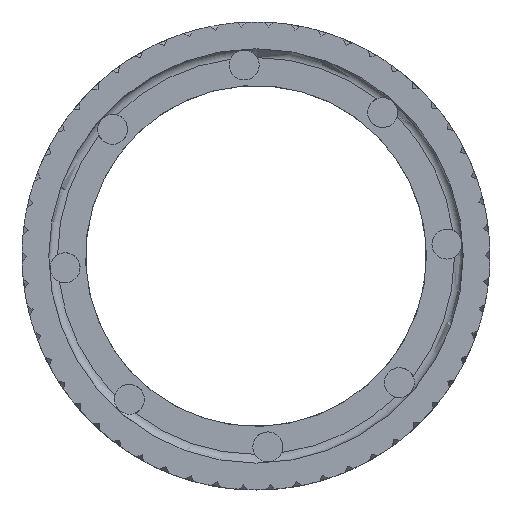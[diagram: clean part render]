
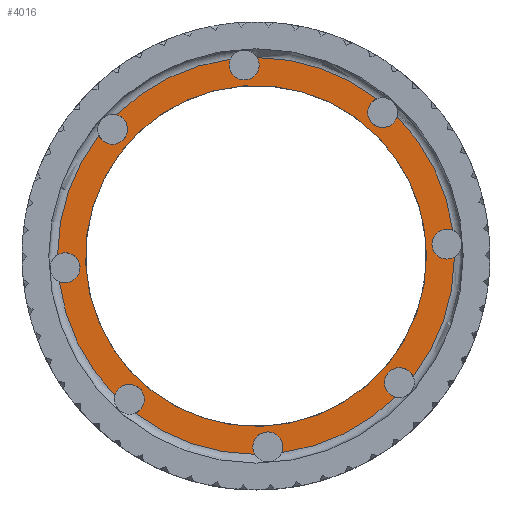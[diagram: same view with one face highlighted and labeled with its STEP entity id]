
A CAD part, top view. The second image highlights one B-rep face of the part: STEP entity #4016.
In plain terms, the highlighted planar face has unit normal (0, 0, 1).
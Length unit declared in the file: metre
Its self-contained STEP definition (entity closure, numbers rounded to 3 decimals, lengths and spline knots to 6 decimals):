
#768=ORIENTED_EDGE('',*,*,#2136,.T.);
#769=ORIENTED_EDGE('',*,*,#2137,.T.);
#770=ORIENTED_EDGE('',*,*,#2138,.T.);
#771=ORIENTED_EDGE('',*,*,#2139,.T.);
#772=ORIENTED_EDGE('',*,*,#2140,.T.);
#773=ORIENTED_EDGE('',*,*,#2141,.T.);
#774=ORIENTED_EDGE('',*,*,#2142,.T.);
#775=ORIENTED_EDGE('',*,*,#2143,.T.);
#776=ORIENTED_EDGE('',*,*,#2144,.T.);
#777=ORIENTED_EDGE('',*,*,#2145,.T.);
#778=ORIENTED_EDGE('',*,*,#2146,.T.);
#779=ORIENTED_EDGE('',*,*,#2147,.T.);
#780=ORIENTED_EDGE('',*,*,#2148,.T.);
#781=ORIENTED_EDGE('',*,*,#2149,.T.);
#782=ORIENTED_EDGE('',*,*,#2150,.T.);
#783=ORIENTED_EDGE('',*,*,#2151,.T.);
#784=ORIENTED_EDGE('',*,*,#2152,.T.);
#2136=EDGE_CURVE('',#2820,#2821,#3281,.F.);
#2137=EDGE_CURVE('',#2821,#2822,#3282,.T.);
#2138=EDGE_CURVE('',#2822,#2823,#3283,.F.);
#2139=EDGE_CURVE('',#2823,#2824,#3284,.T.);
#2140=EDGE_CURVE('',#2824,#2825,#3285,.F.);
#2141=EDGE_CURVE('',#2825,#2826,#3286,.T.);
#2142=EDGE_CURVE('',#2826,#2827,#3287,.F.);
#2143=EDGE_CURVE('',#2827,#2828,#3288,.T.);
#2144=EDGE_CURVE('',#2828,#2829,#3289,.F.);
#2145=EDGE_CURVE('',#2829,#2830,#3290,.T.);
#2146=EDGE_CURVE('',#2830,#2831,#3291,.F.);
#2147=EDGE_CURVE('',#2831,#2832,#3292,.T.);
#2148=EDGE_CURVE('',#2832,#2833,#3293,.F.);
#2149=EDGE_CURVE('',#2833,#2834,#3294,.T.);
#2150=EDGE_CURVE('',#2834,#2835,#3295,.F.);
#2151=EDGE_CURVE('',#2835,#2820,#3296,.T.);
#2152=EDGE_CURVE('',#2836,#2836,#3297,.T.);
#2820=VERTEX_POINT('',#5022);
#2821=VERTEX_POINT('',#5023);
#2822=VERTEX_POINT('',#5025);
#2823=VERTEX_POINT('',#5027);
#2824=VERTEX_POINT('',#5029);
#2825=VERTEX_POINT('',#5031);
#2826=VERTEX_POINT('',#5033);
#2827=VERTEX_POINT('',#5035);
#2828=VERTEX_POINT('',#5037);
#2829=VERTEX_POINT('',#5039);
#2830=VERTEX_POINT('',#5041);
#2831=VERTEX_POINT('',#5043);
#2832=VERTEX_POINT('',#5045);
#2833=VERTEX_POINT('',#5047);
#2834=VERTEX_POINT('',#5049);
#2835=VERTEX_POINT('',#5051);
#2836=VERTEX_POINT('',#5054);
#3281=CIRCLE('',#4271,0.03375);
#3282=CIRCLE('',#4272,0.00255);
#3283=CIRCLE('',#4273,0.03375);
#3284=CIRCLE('',#4274,0.00255);
#3285=CIRCLE('',#4275,0.03375);
#3286=CIRCLE('',#4276,0.00255);
#3287=CIRCLE('',#4277,0.03375);
#3288=CIRCLE('',#4278,0.00255);
#3289=CIRCLE('',#4279,0.03375);
#3290=CIRCLE('',#4280,0.00255);
#3291=CIRCLE('',#4281,0.03375);
#3292=CIRCLE('',#4282,0.00255);
#3293=CIRCLE('',#4283,0.03375);
#3294=CIRCLE('',#4284,0.00255);
#3295=CIRCLE('',#4285,0.03375);
#3296=CIRCLE('',#4286,0.00255);
#3297=CIRCLE('',#4287,0.029);
#3422=EDGE_LOOP('',(#768,#769,#770,#771,#772,#773,#774,#775,#776,#777,#778,
#779,#780,#781,#782,#783));
#3423=EDGE_LOOP('',(#784));
#3681=FACE_BOUND('',#3422,.T.);
#3682=FACE_BOUND('',#3423,.T.);
#3940=PLANE('',#4270);
#4016=ADVANCED_FACE('',(#3681,#3682),#3940,.F.);
#4270=AXIS2_PLACEMENT_3D('',#5020,#4505,#4506);
#4271=AXIS2_PLACEMENT_3D('',#5021,#4507,#4508);
#4272=AXIS2_PLACEMENT_3D('',#5024,#4509,#4510);
#4273=AXIS2_PLACEMENT_3D('',#5026,#4511,#4512);
#4274=AXIS2_PLACEMENT_3D('',#5028,#4513,#4514);
#4275=AXIS2_PLACEMENT_3D('',#5030,#4515,#4516);
#4276=AXIS2_PLACEMENT_3D('',#5032,#4517,#4518);
#4277=AXIS2_PLACEMENT_3D('',#5034,#4519,#4520);
#4278=AXIS2_PLACEMENT_3D('',#5036,#4521,#4522);
#4279=AXIS2_PLACEMENT_3D('',#5038,#4523,#4524);
#4280=AXIS2_PLACEMENT_3D('',#5040,#4525,#4526);
#4281=AXIS2_PLACEMENT_3D('',#5042,#4527,#4528);
#4282=AXIS2_PLACEMENT_3D('',#5044,#4529,#4530);
#4283=AXIS2_PLACEMENT_3D('',#5046,#4531,#4532);
#4284=AXIS2_PLACEMENT_3D('',#5048,#4533,#4534);
#4285=AXIS2_PLACEMENT_3D('',#5050,#4535,#4536);
#4286=AXIS2_PLACEMENT_3D('',#5052,#4537,#4538);
#4287=AXIS2_PLACEMENT_3D('',#5053,#4539,#4540);
#4505=DIRECTION('',(0.,0.,-1.));
#4506=DIRECTION('',(0.819,0.574,0.));
#4507=DIRECTION('',(0.,0.,-1.));
#4508=DIRECTION('',(1.,0.,0.));
#4509=DIRECTION('',(0.,0.,-1.));
#4510=DIRECTION('',(1.,0.,0.));
#4511=DIRECTION('',(0.,0.,-1.));
#4512=DIRECTION('',(1.,0.,0.));
#4513=DIRECTION('',(0.,0.,-1.));
#4514=DIRECTION('',(1.,0.,0.));
#4515=DIRECTION('',(0.,0.,-1.));
#4516=DIRECTION('',(1.,0.,0.));
#4517=DIRECTION('',(0.,0.,-1.));
#4518=DIRECTION('',(1.,0.,0.));
#4519=DIRECTION('',(0.,0.,-1.));
#4520=DIRECTION('',(1.,0.,0.));
#4521=DIRECTION('',(0.,0.,-1.));
#4522=DIRECTION('',(1.,0.,0.));
#4523=DIRECTION('',(0.,0.,-1.));
#4524=DIRECTION('',(1.,0.,0.));
#4525=DIRECTION('',(0.,0.,-1.));
#4526=DIRECTION('',(1.,0.,0.));
#4527=DIRECTION('',(0.,0.,-1.));
#4528=DIRECTION('',(1.,0.,0.));
#4529=DIRECTION('',(0.,0.,-1.));
#4530=DIRECTION('',(1.,0.,0.));
#4531=DIRECTION('',(0.,0.,-1.));
#4532=DIRECTION('',(1.,0.,0.));
#4533=DIRECTION('',(0.,0.,-1.));
#4534=DIRECTION('',(1.,0.,0.));
#4535=DIRECTION('',(0.,0.,-1.));
#4536=DIRECTION('',(1.,0.,0.));
#4537=DIRECTION('',(0.,0.,-1.));
#4538=DIRECTION('',(1.,0.,0.));
#4539=DIRECTION('',(0.,0.,-1.));
#4540=DIRECTION('',(1.,0.,0.));
#5020=CARTESIAN_POINT('',(0.,0.,0.0758));
#5021=CARTESIAN_POINT('',(0.,0.,0.0758));
#5022=CARTESIAN_POINT('',(-0.026754,0.020575,0.0758));
#5023=CARTESIAN_POINT('',(-0.033749,0.000202,0.0758));
#5024=CARTESIAN_POINT('',(-0.032488,-0.002014,0.0758));
#5025=CARTESIAN_POINT('',(-0.033466,-0.004369,0.0758));
#5026=CARTESIAN_POINT('',(0.,0.,0.0758));
#5027=CARTESIAN_POINT('',(-0.024007,-0.023722,0.0758));
#5028=CARTESIAN_POINT('',(-0.021548,-0.024397,0.0758));
#5029=CARTESIAN_POINT('',(-0.020575,-0.026754,0.0758));
#5030=CARTESIAN_POINT('',(0.,0.,0.0758));
#5031=CARTESIAN_POINT('',(-0.000202,-0.033749,0.0758));
#5032=CARTESIAN_POINT('',(0.002014,-0.032488,0.0758));
#5033=CARTESIAN_POINT('',(0.004369,-0.033466,0.0758));
#5034=CARTESIAN_POINT('',(0.,0.,0.0758));
#5035=CARTESIAN_POINT('',(0.023722,-0.024007,0.0758));
#5036=CARTESIAN_POINT('',(0.024397,-0.021548,0.0758));
#5037=CARTESIAN_POINT('',(0.026754,-0.020575,0.0758));
#5038=CARTESIAN_POINT('',(0.,0.,0.0758));
#5039=CARTESIAN_POINT('',(0.033749,-0.000202,0.0758));
#5040=CARTESIAN_POINT('',(0.032488,0.002014,0.0758));
#5041=CARTESIAN_POINT('',(0.033466,0.004369,0.0758));
#5042=CARTESIAN_POINT('',(0.,0.,0.0758));
#5043=CARTESIAN_POINT('',(0.024007,0.023722,0.0758));
#5044=CARTESIAN_POINT('',(0.021548,0.024397,0.0758));
#5045=CARTESIAN_POINT('',(0.020575,0.026754,0.0758));
#5046=CARTESIAN_POINT('',(0.,0.,0.0758));
#5047=CARTESIAN_POINT('',(0.000202,0.033749,0.0758));
#5048=CARTESIAN_POINT('',(-0.002014,0.032488,0.0758));
#5049=CARTESIAN_POINT('',(-0.004369,0.033466,0.0758));
#5050=CARTESIAN_POINT('',(0.,0.,0.0758));
#5051=CARTESIAN_POINT('',(-0.023722,0.024007,0.0758));
#5052=CARTESIAN_POINT('',(-0.024397,0.021548,0.0758));
#5053=CARTESIAN_POINT('',(0.,0.,0.0758));
#5054=CARTESIAN_POINT('',(0.029,0.,0.0758));
